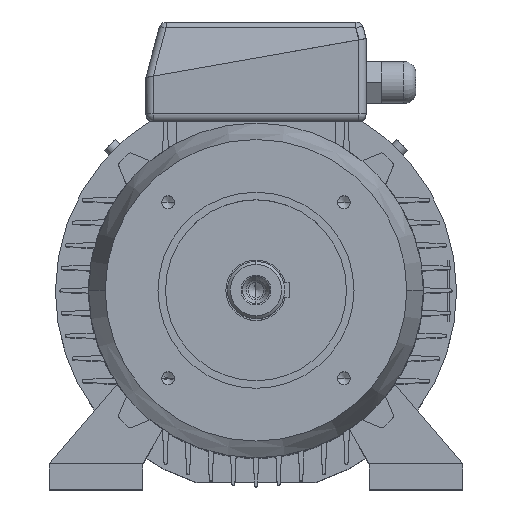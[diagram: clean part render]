
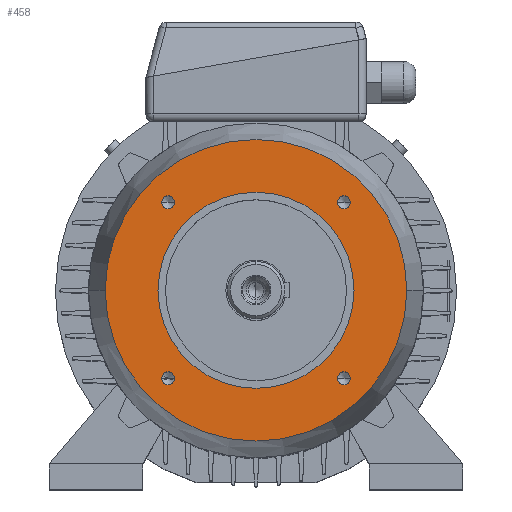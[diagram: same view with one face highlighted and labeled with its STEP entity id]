
A CAD part, top view. The second image highlights one B-rep face of the part: STEP entity #458.
In plain terms, the highlighted planar face has unit normal (0, 0, 1).
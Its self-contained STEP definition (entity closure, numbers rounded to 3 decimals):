
#181 = EDGE_LOOP ( 'NONE', ( #13473, #12423 ) ) ;
#394 = ORIENTED_EDGE ( 'NONE', *, *, #13844, .F. ) ;
#458 = ADVANCED_FACE ( 'NONE', ( #9721, #9722, #9723, #9724, #9725, #9726 ), #9733, .F. ) ;
#616 = CIRCLE ( 'NONE', #617, 4.25 ) ;
#617 = AXIS2_PLACEMENT_3D ( 'NONE', #618, #619, #620 ) ;
#618 = CARTESIAN_POINT ( 'NONE',  ( 58.336, 58.336, 58. ) ) ;
#619 = DIRECTION ( 'NONE',  ( 0., 0., 1. ) ) ;
#620 = DIRECTION ( 'NONE',  ( 1., 0., 0. ) ) ;
#936 = VERTEX_POINT ( 'NONE', #9957 ) ;
#982 = ORIENTED_EDGE ( 'NONE', *, *, #11666, .F. ) ;
#1352 = CIRCLE ( 'NONE', #1353, 65. ) ;
#1353 = AXIS2_PLACEMENT_3D ( 'NONE', #1357, #1358, #1359 ) ;
#1357 = CARTESIAN_POINT ( 'NONE',  ( 0., 0., 58. ) ) ;
#1358 = DIRECTION ( 'NONE',  ( 0., 0., 1. ) ) ;
#1359 = DIRECTION ( 'NONE',  ( 1., 0., 0. ) ) ;
#1439 = VERTEX_POINT ( 'NONE', #10236 ) ;
#3342 = CARTESIAN_POINT ( 'NONE',  ( 62.586, 58.336, 58. ) ) ;
#3460 = CIRCLE ( 'NONE', #3461, 4.25 ) ;
#3461 = AXIS2_PLACEMENT_3D ( 'NONE', #3475, #3476, #3477 ) ;
#3475 = CARTESIAN_POINT ( 'NONE',  ( 58.336, 58.336, 58. ) ) ;
#3476 = DIRECTION ( 'NONE',  ( 0., 0., 1. ) ) ;
#3477 = DIRECTION ( 'NONE',  ( 1., 0., 0. ) ) ;
#3840 = VERTEX_POINT ( 'NONE', #11484 ) ;
#4026 = CARTESIAN_POINT ( 'NONE',  ( 54.086, 58.336, 58. ) ) ;
#4102 = EDGE_CURVE ( 'NONE', #5080, #3840, #11632, .T. ) ;
#4233 = CIRCLE ( 'NONE', #4234, 4.25 ) ;
#4234 = AXIS2_PLACEMENT_3D ( 'NONE', #4235, #4236, #4239 ) ;
#4235 = CARTESIAN_POINT ( 'NONE',  ( -58.336, -58.336, 58. ) ) ;
#4236 = DIRECTION ( 'NONE',  ( 0., 0., 1. ) ) ;
#4239 = DIRECTION ( 'NONE',  ( 1., 0., 0. ) ) ;
#4937 = CIRCLE ( 'NONE', #4938, 4.25 ) ;
#4938 = AXIS2_PLACEMENT_3D ( 'NONE', #4939, #4940, #4941 ) ;
#4939 = CARTESIAN_POINT ( 'NONE',  ( -58.336, 58.336, 58. ) ) ;
#4940 = DIRECTION ( 'NONE',  ( 0., 0., 1. ) ) ;
#4941 = DIRECTION ( 'NONE',  ( 1., 0., 0. ) ) ;
#5080 = VERTEX_POINT ( 'NONE', #12080 ) ;
#5884 = CIRCLE ( 'NONE', #5885, 4.25 ) ;
#5885 = AXIS2_PLACEMENT_3D ( 'NONE', #5886, #5887, #5888 ) ;
#5886 = CARTESIAN_POINT ( 'NONE',  ( 58.336, -58.336, 58. ) ) ;
#5887 = DIRECTION ( 'NONE',  ( 0., 0., 1. ) ) ;
#5888 = DIRECTION ( 'NONE',  ( 1., 0., 0. ) ) ;
#5895 = CARTESIAN_POINT ( 'NONE',  ( -100., 0., 58. ) ) ;
#5987 = CIRCLE ( 'NONE', #5988, 100. ) ;
#5988 = AXIS2_PLACEMENT_3D ( 'NONE', #5989, #5990, #5991 ) ;
#5989 = CARTESIAN_POINT ( 'NONE',  ( 0., 0., 58. ) ) ;
#5990 = DIRECTION ( 'NONE',  ( 0., 0., 1. ) ) ;
#5991 = DIRECTION ( 'NONE',  ( 1., 0., 0. ) ) ;
#5998 = CARTESIAN_POINT ( 'NONE',  ( 100., 0., 58. ) ) ;
#6118 = CARTESIAN_POINT ( 'NONE',  ( -65., 0., 58. ) ) ;
#6153 = CIRCLE ( 'NONE', #6154, 100. ) ;
#6154 = AXIS2_PLACEMENT_3D ( 'NONE', #6155, #6156, #6157 ) ;
#6155 = CARTESIAN_POINT ( 'NONE',  ( 0., 0., 58. ) ) ;
#6156 = DIRECTION ( 'NONE',  ( 0., 0., 1. ) ) ;
#6157 = DIRECTION ( 'NONE',  ( 1., 0., 0. ) ) ;
#6258 = CARTESIAN_POINT ( 'NONE',  ( 65., 0., 58. ) ) ;
#6384 = CIRCLE ( 'NONE', #6385, 65. ) ;
#6385 = AXIS2_PLACEMENT_3D ( 'NONE', #6386, #6387, #6388 ) ;
#6386 = CARTESIAN_POINT ( 'NONE',  ( 0., 0., 58. ) ) ;
#6387 = DIRECTION ( 'NONE',  ( 0., 0., 1. ) ) ;
#6388 = DIRECTION ( 'NONE',  ( 1., 0., 0. ) ) ;
#6858 = CIRCLE ( 'NONE', #6859, 4.25 ) ;
#6859 = AXIS2_PLACEMENT_3D ( 'NONE', #6860, #6864, #6865 ) ;
#6860 = CARTESIAN_POINT ( 'NONE',  ( -58.336, -58.336, 58. ) ) ;
#6864 = DIRECTION ( 'NONE',  ( 0., 0., 1. ) ) ;
#6865 = DIRECTION ( 'NONE',  ( 1., 0., 0. ) ) ;
#7264 = VERTEX_POINT ( 'NONE', #13235 ) ;
#7325 = EDGE_CURVE ( 'NONE', #7536, #7264, #13347, .T. ) ;
#7536 = VERTEX_POINT ( 'NONE', #13860 ) ;
#8600 = VERTEX_POINT ( 'NONE', #3342 ) ;
#8662 = EDGE_CURVE ( 'NONE', #8889, #8600, #3460, .T. ) ;
#8889 = VERTEX_POINT ( 'NONE', #4026 ) ;
#8979 = EDGE_CURVE ( 'NONE', #1439, #936, #4233, .T. ) ;
#9084 = ORIENTED_EDGE ( 'NONE', *, *, #7325, .F. ) ;
#9282 = EDGE_CURVE ( 'NONE', #7264, #7536, #4937, .T. ) ;
#9374 = ORIENTED_EDGE ( 'NONE', *, *, #9282, .F. ) ;
#9721 = FACE_BOUND ( 'NONE', #181, .T. ) ;
#9722 = FACE_OUTER_BOUND ( 'NONE', #12152, .T. ) ;
#9723 = FACE_BOUND ( 'NONE', #10105, .T. ) ;
#9724 = FACE_BOUND ( 'NONE', #13574, .T. ) ;
#9725 = FACE_BOUND ( 'NONE', #11707, .T. ) ;
#9726 = FACE_BOUND ( 'NONE', #9972, .T. ) ;
#9733 = PLANE ( 'NONE',  #9734 ) ;
#9734 = AXIS2_PLACEMENT_3D ( 'NONE', #9735, #9736, #9737 ) ;
#9735 = CARTESIAN_POINT ( 'NONE',  ( 0., 100., 58. ) ) ;
#9736 = DIRECTION ( 'NONE',  ( 0., 0., -1. ) ) ;
#9737 = DIRECTION ( 'NONE',  ( -1., 0., 0. ) ) ;
#9957 = CARTESIAN_POINT ( 'NONE',  ( -54.086, -58.336, 58. ) ) ;
#9972 = EDGE_LOOP ( 'NONE', ( #9374, #9084 ) ) ;
#10105 = EDGE_LOOP ( 'NONE', ( #982, #394 ) ) ;
#10124 = ORIENTED_EDGE ( 'NONE', *, *, #4102, .F. ) ;
#10236 = CARTESIAN_POINT ( 'NONE',  ( -62.586, -58.336, 58. ) ) ;
#10370 = ORIENTED_EDGE ( 'NONE', *, *, #11239, .T. ) ;
#10698 = EDGE_CURVE ( 'NONE', #3840, #5080, #5884, .T. ) ;
#10738 = VERTEX_POINT ( 'NONE', #5895 ) ;
#10946 = EDGE_CURVE ( 'NONE', #10738, #10990, #5987, .T. ) ;
#10990 = VERTEX_POINT ( 'NONE', #5998 ) ;
#11118 = ORIENTED_EDGE ( 'NONE', *, *, #10698, .F. ) ;
#11159 = VERTEX_POINT ( 'NONE', #6118 ) ;
#11239 = EDGE_CURVE ( 'NONE', #10990, #10738, #6153, .T. ) ;
#11369 = ORIENTED_EDGE ( 'NONE', *, *, #10946, .T. ) ;
#11408 = VERTEX_POINT ( 'NONE', #6258 ) ;
#11484 = CARTESIAN_POINT ( 'NONE',  ( 62.586, -58.336, 58. ) ) ;
#11632 = CIRCLE ( 'NONE', #11633, 4.25 ) ;
#11633 = AXIS2_PLACEMENT_3D ( 'NONE', #11634, #11635, #11636 ) ;
#11634 = CARTESIAN_POINT ( 'NONE',  ( 58.336, -58.336, 58. ) ) ;
#11635 = DIRECTION ( 'NONE',  ( 0., 0., 1. ) ) ;
#11636 = DIRECTION ( 'NONE',  ( 1., 0., 0. ) ) ;
#11666 = EDGE_CURVE ( 'NONE', #11408, #11159, #6384, .T. ) ;
#11707 = EDGE_LOOP ( 'NONE', ( #11118, #10124 ) ) ;
#11985 = ORIENTED_EDGE ( 'NONE', *, *, #8979, .F. ) ;
#12080 = CARTESIAN_POINT ( 'NONE',  ( 54.086, -58.336, 58. ) ) ;
#12152 = EDGE_LOOP ( 'NONE', ( #11369, #10370 ) ) ;
#12423 = ORIENTED_EDGE ( 'NONE', *, *, #8662, .F. ) ;
#12569 = EDGE_CURVE ( 'NONE', #936, #1439, #6858, .T. ) ;
#12989 = ORIENTED_EDGE ( 'NONE', *, *, #12569, .F. ) ;
#13053 = EDGE_CURVE ( 'NONE', #8600, #8889, #616, .T. ) ;
#13235 = CARTESIAN_POINT ( 'NONE',  ( -54.086, 58.336, 58. ) ) ;
#13347 = CIRCLE ( 'NONE', #13348, 4.25 ) ;
#13348 = AXIS2_PLACEMENT_3D ( 'NONE', #13349, #13350, #13351 ) ;
#13349 = CARTESIAN_POINT ( 'NONE',  ( -58.336, 58.336, 58. ) ) ;
#13350 = DIRECTION ( 'NONE',  ( 0., 0., 1. ) ) ;
#13351 = DIRECTION ( 'NONE',  ( 1., 0., 0. ) ) ;
#13473 = ORIENTED_EDGE ( 'NONE', *, *, #13053, .F. ) ;
#13574 = EDGE_LOOP ( 'NONE', ( #12989, #11985 ) ) ;
#13844 = EDGE_CURVE ( 'NONE', #11159, #11408, #1352, .T. ) ;
#13860 = CARTESIAN_POINT ( 'NONE',  ( -62.586, 58.336, 58. ) ) ;
